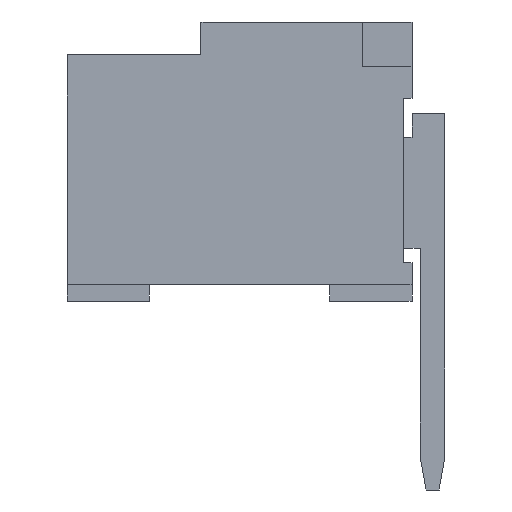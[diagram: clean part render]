
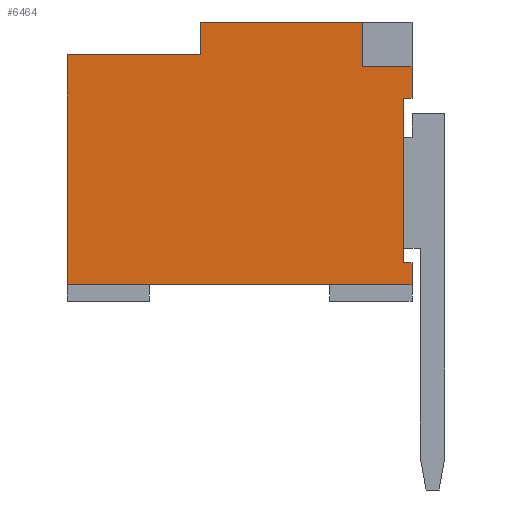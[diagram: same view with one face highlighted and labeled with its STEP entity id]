
A CAD part, left-side view. The second image highlights one B-rep face of the part: STEP entity #6464.
In plain terms, the highlighted planar face has unit normal (-1, 0, 0).
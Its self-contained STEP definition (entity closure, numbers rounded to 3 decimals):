
#1=DIRECTION('',(0.,1.,0.));
#2=VECTOR('',#1,0.6);
#3=CARTESIAN_POINT('',(0.,-4.2,-0.54));
#4=LINE('',#3,#2);
#5=DIRECTION('',(0.,0.,-1.));
#6=VECTOR('',#5,0.39);
#7=CARTESIAN_POINT('',(0.,-4.2,-0.54));
#8=LINE('',#7,#6);
#9=DIRECTION('',(0.,1.,0.));
#10=VECTOR('',#9,0.1);
#11=CARTESIAN_POINT('',(0.,-4.2,-0.93));
#12=LINE('',#11,#10);
#13=DIRECTION('',(0.,0.,1.));
#14=VECTOR('',#13,2.);
#15=CARTESIAN_POINT('',(0.,-4.1,-2.93));
#16=LINE('',#15,#14);
#17=DIRECTION('',(0.,1.,0.));
#18=VECTOR('',#17,0.1);
#19=CARTESIAN_POINT('',(0.,-4.2,-2.93));
#20=LINE('',#19,#18);
#21=DIRECTION('',(0.,0.,-1.));
#22=VECTOR('',#21,0.27);
#23=CARTESIAN_POINT('',(0.,-4.2,-2.93));
#24=LINE('',#23,#22);
#25=DIRECTION('',(0.,1.,0.));
#26=VECTOR('',#25,4.2);
#27=CARTESIAN_POINT('',(0.,-4.2,-3.2));
#28=LINE('',#27,#26);
#29=DIRECTION('',(0.,0.,1.));
#30=VECTOR('',#29,2.8);
#31=CARTESIAN_POINT('',(0.,0.,-3.2));
#32=LINE('',#31,#30);
#33=DIRECTION('',(0.,-1.,0.));
#34=VECTOR('',#33,1.63);
#35=CARTESIAN_POINT('',(0.,0.,-0.4));
#36=LINE('',#35,#34);
#37=DIRECTION('',(0.,0.,-1.));
#38=VECTOR('',#37,0.4);
#39=CARTESIAN_POINT('',(0.,-1.63,0.));
#40=LINE('',#39,#38);
#41=DIRECTION('',(0.,-1.,0.));
#42=VECTOR('',#41,1.97);
#43=CARTESIAN_POINT('',(0.,-1.63,0.));
#44=LINE('',#43,#42);
#45=DIRECTION('',(0.,0.,-1.));
#46=VECTOR('',#45,0.54);
#47=CARTESIAN_POINT('',(0.,-3.6,0.));
#48=LINE('',#47,#46);
#4861=CARTESIAN_POINT('',(0.,-4.2,-3.2));
#4862=CARTESIAN_POINT('',(0.,0.,-3.2));
#4863=VERTEX_POINT('',#4861);
#4864=VERTEX_POINT('',#4862);
#4869=CARTESIAN_POINT('',(0.,-1.63,0.));
#4870=CARTESIAN_POINT('',(0.,-1.63,-0.4));
#4871=VERTEX_POINT('',#4869);
#4872=VERTEX_POINT('',#4870);
#4873=CARTESIAN_POINT('',(0.,0.,-0.4));
#4874=VERTEX_POINT('',#4873);
#4875=CARTESIAN_POINT('',(0.,-4.2,-2.93));
#4876=CARTESIAN_POINT('',(0.,-4.1,-2.93));
#4877=VERTEX_POINT('',#4875);
#4878=VERTEX_POINT('',#4876);
#4879=CARTESIAN_POINT('',(0.,-4.1,-0.93));
#4880=VERTEX_POINT('',#4879);
#4881=CARTESIAN_POINT('',(0.,-4.2,-0.93));
#4882=VERTEX_POINT('',#4881);
#5093=CARTESIAN_POINT('',(0.,-4.2,-0.54));
#5094=CARTESIAN_POINT('',(0.,-3.6,-0.54));
#5095=VERTEX_POINT('',#5093);
#5096=VERTEX_POINT('',#5094);
#5097=CARTESIAN_POINT('',(0.,-3.6,0.));
#5098=VERTEX_POINT('',#5097);
#6433=CARTESIAN_POINT('',(0.,0.,0.));
#6434=DIRECTION('',(1.,0.,0.));
#6435=DIRECTION('',(0.,-1.,0.));
#6436=AXIS2_PLACEMENT_3D('',#6433,#6434,#6435);
#6437=PLANE('',#6436);
#6439=ORIENTED_EDGE('',*,*,#6438,.F.);
#6441=ORIENTED_EDGE('',*,*,#6440,.T.);
#6443=ORIENTED_EDGE('',*,*,#6442,.T.);
#6445=ORIENTED_EDGE('',*,*,#6444,.F.);
#6447=ORIENTED_EDGE('',*,*,#6446,.F.);
#6449=ORIENTED_EDGE('',*,*,#6448,.T.);
#6451=ORIENTED_EDGE('',*,*,#6450,.T.);
#6453=ORIENTED_EDGE('',*,*,#6452,.T.);
#6455=ORIENTED_EDGE('',*,*,#6454,.T.);
#6457=ORIENTED_EDGE('',*,*,#6456,.F.);
#6459=ORIENTED_EDGE('',*,*,#6458,.T.);
#6461=ORIENTED_EDGE('',*,*,#6460,.T.);
#6462=EDGE_LOOP('',(#6439,#6441,#6443,#6445,#6447,#6449,#6451,#6453,#6455,#6457,
#6459,#6461));
#6463=FACE_OUTER_BOUND('',#6462,.F.);
#6464=ADVANCED_FACE('',(#6463),#6437,.F.);
#6438=EDGE_CURVE('',#5095,#5096,#4,.T.);
#6440=EDGE_CURVE('',#5095,#4882,#8,.T.);
#6442=EDGE_CURVE('',#4882,#4880,#12,.T.);
#6444=EDGE_CURVE('',#4878,#4880,#16,.T.);
#6446=EDGE_CURVE('',#4877,#4878,#20,.T.);
#6448=EDGE_CURVE('',#4877,#4863,#24,.T.);
#6450=EDGE_CURVE('',#4863,#4864,#28,.T.);
#6452=EDGE_CURVE('',#4864,#4874,#32,.T.);
#6454=EDGE_CURVE('',#4874,#4872,#36,.T.);
#6456=EDGE_CURVE('',#4871,#4872,#40,.T.);
#6458=EDGE_CURVE('',#4871,#5098,#44,.T.);
#6460=EDGE_CURVE('',#5098,#5096,#48,.T.);
